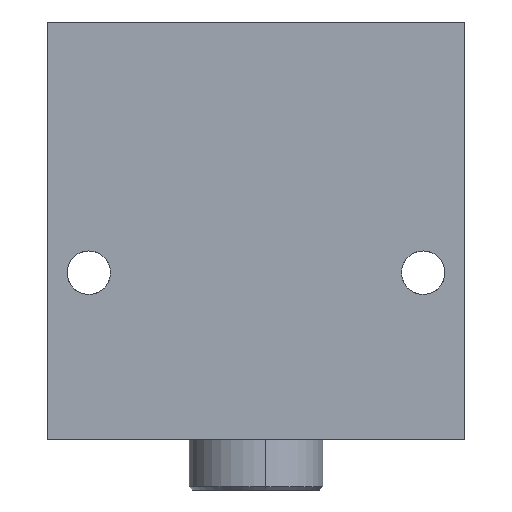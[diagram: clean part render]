
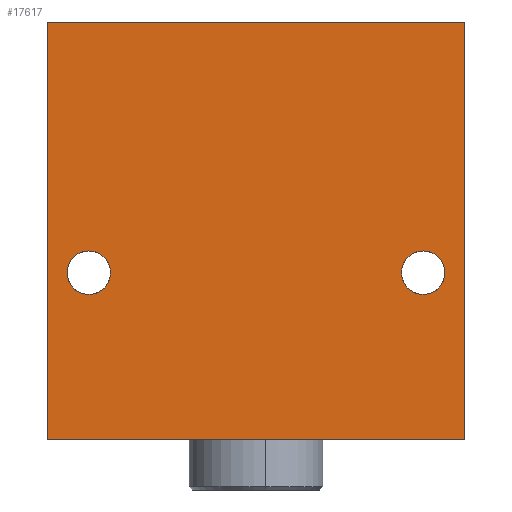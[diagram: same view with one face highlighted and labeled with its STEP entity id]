
A CAD part, front view. The second image highlights one B-rep face of the part: STEP entity #17617.
In plain terms, the highlighted planar face has unit normal (0, -1, 0).
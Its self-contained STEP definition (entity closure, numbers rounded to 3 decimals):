
#166 = CARTESIAN_POINT ( 'NONE',  ( -50., 0., -31.5 ) ) ;
#319 = EDGE_CURVE ( 'NONE', #2263, #16179, #8577, .T. ) ;
#380 = ORIENTED_EDGE ( 'NONE', *, *, #12356, .T. ) ;
#436 = AXIS2_PLACEMENT_3D ( 'NONE', #5972, #15364, #7390 ) ;
#765 = VECTOR ( 'NONE', #13489, 1000. ) ;
#766 = CARTESIAN_POINT ( 'NONE',  ( -62.5, 0., -75. ) ) ;
#1193 = CIRCLE ( 'NONE', #14925, 6.5 ) ;
#1434 = CIRCLE ( 'NONE', #14705, 6.5 ) ;
#2082 = VERTEX_POINT ( 'NONE', #9391 ) ;
#2263 = VERTEX_POINT ( 'NONE', #166 ) ;
#2439 = ORIENTED_EDGE ( 'NONE', *, *, #9503, .F. ) ;
#2454 = AXIS2_PLACEMENT_3D ( 'NONE', #15424, #7450, #16826 ) ;
#2869 = CARTESIAN_POINT ( 'NONE',  ( 50., 0., -18.5 ) ) ;
#2879 = CARTESIAN_POINT ( 'NONE',  ( -50., 0., -18.5 ) ) ;
#2934 = VERTEX_POINT ( 'NONE', #766 ) ;
#3328 = EDGE_CURVE ( 'NONE', #10244, #2082, #9383, .T. ) ;
#3778 = CARTESIAN_POINT ( 'NONE',  ( -62.5, 0., -75. ) ) ;
#4236 = EDGE_LOOP ( 'NONE', ( #14999, #6860 ) ) ;
#4377 = PLANE ( 'NONE',  #17088 ) ;
#5003 = CIRCLE ( 'NONE', #436, 6.5 ) ;
#5079 = CARTESIAN_POINT ( 'NONE',  ( 50., 0., -25. ) ) ;
#5614 = CARTESIAN_POINT ( 'NONE',  ( 50., 0., -25. ) ) ;
#5900 = LINE ( 'NONE', #10954, #765 ) ;
#5972 = CARTESIAN_POINT ( 'NONE',  ( -50., 0., -25. ) ) ;
#6464 = CARTESIAN_POINT ( 'NONE',  ( 62.5, 0., -75. ) ) ;
#6471 = DIRECTION ( 'NONE',  ( 0., 0., 1. ) ) ;
#6621 = FACE_BOUND ( 'NONE', #4236, .T. ) ;
#6860 = ORIENTED_EDGE ( 'NONE', *, *, #7414, .T. ) ;
#7034 = DIRECTION ( 'NONE',  ( 0., 0., 1. ) ) ;
#7167 = DIRECTION ( 'NONE',  ( 0., 0., 1. ) ) ;
#7390 = DIRECTION ( 'NONE',  ( 0., 0., 1. ) ) ;
#7402 = VERTEX_POINT ( 'NONE', #2869 ) ;
#7414 = EDGE_CURVE ( 'NONE', #17260, #7402, #1434, .T. ) ;
#7450 = DIRECTION ( 'NONE',  ( 0., 1., 0. ) ) ;
#7557 = CARTESIAN_POINT ( 'NONE',  ( 50., 0., -31.5 ) ) ;
#7768 = VERTEX_POINT ( 'NONE', #6464 ) ;
#7836 = EDGE_CURVE ( 'NONE', #2934, #10244, #16040, .T. ) ;
#8120 = EDGE_LOOP ( 'NONE', ( #380, #15212 ) ) ;
#8541 = VECTOR ( 'NONE', #17492, 1000. ) ;
#8577 = CIRCLE ( 'NONE', #2454, 6.5 ) ;
#8737 = EDGE_CURVE ( 'NONE', #7402, #17260, #1193, .T. ) ;
#9146 = EDGE_CURVE ( 'NONE', #2082, #7768, #5900, .T. ) ;
#9383 = LINE ( 'NONE', #9977, #12467 ) ;
#9391 = CARTESIAN_POINT ( 'NONE',  ( 62.5, 0., 50. ) ) ;
#9479 = CARTESIAN_POINT ( 'NONE',  ( -62.5, 0., -75. ) ) ;
#9503 = EDGE_CURVE ( 'NONE', #7768, #2934, #16425, .T. ) ;
#9977 = CARTESIAN_POINT ( 'NONE',  ( -62.5, 0., 50. ) ) ;
#10244 = VERTEX_POINT ( 'NONE', #12873 ) ;
#10333 = ORIENTED_EDGE ( 'NONE', *, *, #3328, .F. ) ;
#10954 = CARTESIAN_POINT ( 'NONE',  ( 62.5, 0., -75. ) ) ;
#11912 = ORIENTED_EDGE ( 'NONE', *, *, #7836, .F. ) ;
#12356 = EDGE_CURVE ( 'NONE', #16179, #2263, #5003, .T. ) ;
#12363 = CARTESIAN_POINT ( 'NONE',  ( 0., 0., 0. ) ) ;
#12467 = VECTOR ( 'NONE', #16802, 1000. ) ;
#12873 = CARTESIAN_POINT ( 'NONE',  ( -62.5, 0., 50. ) ) ;
#13265 = VECTOR ( 'NONE', #14581, 1000. ) ;
#13339 = FACE_OUTER_BOUND ( 'NONE', #14976, .T. ) ;
#13489 = DIRECTION ( 'NONE',  ( 0., 0., -1. ) ) ;
#14496 = DIRECTION ( 'NONE',  ( 0., 1., 0. ) ) ;
#14581 = DIRECTION ( 'NONE',  ( -1., 0., 0. ) ) ;
#14705 = AXIS2_PLACEMENT_3D ( 'NONE', #5614, #15013, #7034 ) ;
#14925 = AXIS2_PLACEMENT_3D ( 'NONE', #5079, #14496, #6471 ) ;
#14976 = EDGE_LOOP ( 'NONE', ( #11912, #2439, #15870, #10333 ) ) ;
#14999 = ORIENTED_EDGE ( 'NONE', *, *, #8737, .T. ) ;
#15013 = DIRECTION ( 'NONE',  ( 0., 1., 0. ) ) ;
#15146 = DIRECTION ( 'NONE',  ( 0., 1., 0. ) ) ;
#15212 = ORIENTED_EDGE ( 'NONE', *, *, #319, .T. ) ;
#15364 = DIRECTION ( 'NONE',  ( 0., 1., 0. ) ) ;
#15424 = CARTESIAN_POINT ( 'NONE',  ( -50., 0., -25. ) ) ;
#15870 = ORIENTED_EDGE ( 'NONE', *, *, #9146, .F. ) ;
#16040 = LINE ( 'NONE', #9479, #8541 ) ;
#16179 = VERTEX_POINT ( 'NONE', #2879 ) ;
#16425 = LINE ( 'NONE', #3778, #13265 ) ;
#16802 = DIRECTION ( 'NONE',  ( 1., 0., 0. ) ) ;
#16826 = DIRECTION ( 'NONE',  ( 0., 0., 1. ) ) ;
#16950 = FACE_BOUND ( 'NONE', #8120, .T. ) ;
#17088 = AXIS2_PLACEMENT_3D ( 'NONE', #12363, #15146, #7167 ) ;
#17260 = VERTEX_POINT ( 'NONE', #7557 ) ;
#17492 = DIRECTION ( 'NONE',  ( 0., 0., 1. ) ) ;
#17617 = ADVANCED_FACE ( 'NONE', ( #16950, #6621, #13339 ), #4377, .F. ) ;
